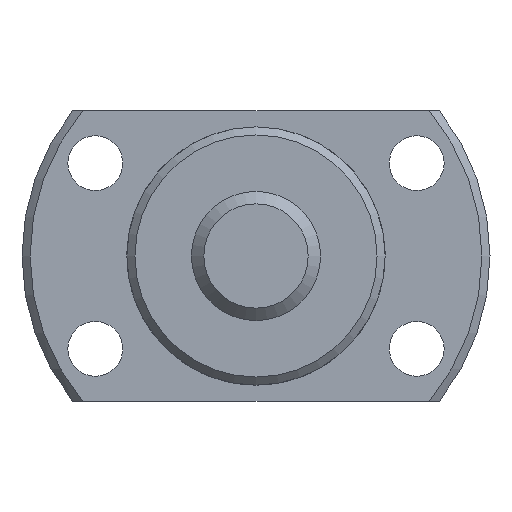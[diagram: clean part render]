
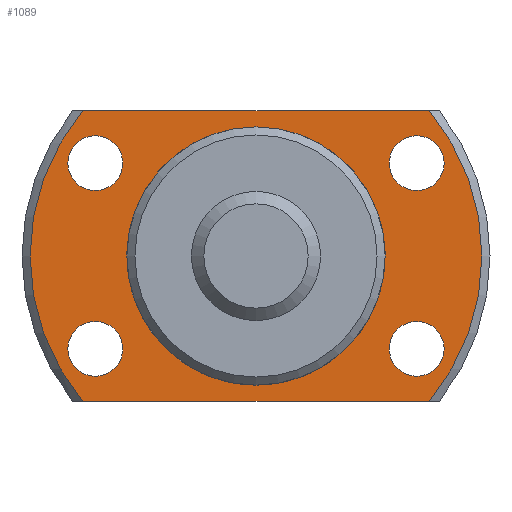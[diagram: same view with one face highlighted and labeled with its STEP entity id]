
A CAD part, left-side view. The second image highlights one B-rep face of the part: STEP entity #1089.
In plain terms, the highlighted planar face has unit normal (-1, 0, 0) as drawn and (1, 0, 0) by its records, which use the part's own axes.
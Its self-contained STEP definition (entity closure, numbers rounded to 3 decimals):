
#121=LINE('',#1882,#189);
#122=LINE('',#1884,#190);
#189=VECTOR('',#1518,1000.);
#190=VECTOR('',#1519,1000.);
#360=ORIENTED_EDGE('',*,*,#605,.T.);
#361=ORIENTED_EDGE('',*,*,#587,.T.);
#362=ORIENTED_EDGE('',*,*,#606,.T.);
#363=ORIENTED_EDGE('',*,*,#607,.T.);
#364=ORIENTED_EDGE('',*,*,#608,.F.);
#365=ORIENTED_EDGE('',*,*,#609,.F.);
#366=ORIENTED_EDGE('',*,*,#610,.F.);
#367=ORIENTED_EDGE('',*,*,#611,.F.);
#368=ORIENTED_EDGE('',*,*,#580,.F.);
#580=EDGE_CURVE('',#709,#709,#786,.T.);
#587=EDGE_CURVE('',#713,#715,#789,.T.);
#605=EDGE_CURVE('',#731,#713,#121,.T.);
#606=EDGE_CURVE('',#715,#732,#122,.T.);
#607=EDGE_CURVE('',#732,#731,#801,.T.);
#608=EDGE_CURVE('',#733,#733,#802,.T.);
#609=EDGE_CURVE('',#734,#734,#803,.T.);
#610=EDGE_CURVE('',#735,#735,#804,.T.);
#611=EDGE_CURVE('',#736,#736,#805,.T.);
#709=VERTEX_POINT('',#1816);
#713=VERTEX_POINT('',#1828);
#715=VERTEX_POINT('',#1835);
#731=VERTEX_POINT('',#1883);
#732=VERTEX_POINT('',#1885);
#733=VERTEX_POINT('',#1888);
#734=VERTEX_POINT('',#1890);
#735=VERTEX_POINT('',#1892);
#736=VERTEX_POINT('',#1894);
#786=CIRCLE('',#1216,7.8);
#789=CIRCLE('',#1220,14.);
#801=CIRCLE('',#1239,14.);
#802=CIRCLE('',#1240,1.7);
#803=CIRCLE('',#1241,1.7);
#804=CIRCLE('',#1242,1.7);
#805=CIRCLE('',#1243,1.7);
#875=EDGE_LOOP('',(#360,#361,#362,#363));
#876=EDGE_LOOP('',(#364));
#877=EDGE_LOOP('',(#365));
#878=EDGE_LOOP('',(#366));
#879=EDGE_LOOP('',(#367));
#880=EDGE_LOOP('',(#368));
#977=FACE_BOUND('',#875,.T.);
#978=FACE_BOUND('',#876,.T.);
#979=FACE_BOUND('',#877,.T.);
#980=FACE_BOUND('',#878,.T.);
#981=FACE_BOUND('',#879,.T.);
#982=FACE_BOUND('',#880,.T.);
#1034=PLANE('',#1238);
#1089=ADVANCED_FACE('',(#977,#978,#979,#980,#981,#982),#1034,.T.);
#1216=AXIS2_PLACEMENT_3D('',#1815,#1466,#1467);
#1220=AXIS2_PLACEMENT_3D('',#1836,#1476,#1477);
#1238=AXIS2_PLACEMENT_3D('',#1881,#1516,#1517);
#1239=AXIS2_PLACEMENT_3D('',#1886,#1520,#1521);
#1240=AXIS2_PLACEMENT_3D('',#1887,#1522,#1523);
#1241=AXIS2_PLACEMENT_3D('',#1889,#1524,#1525);
#1242=AXIS2_PLACEMENT_3D('',#1891,#1526,#1527);
#1243=AXIS2_PLACEMENT_3D('',#1893,#1528,#1529);
#1466=DIRECTION('',(1.,0.,0.));
#1467=DIRECTION('',(0.,0.,-1.));
#1476=DIRECTION('',(1.,0.,0.));
#1477=DIRECTION('',(0.,0.,-1.));
#1516=DIRECTION('',(1.,0.,0.));
#1517=DIRECTION('',(0.,0.,-1.));
#1518=DIRECTION('',(0.,-1.,0.));
#1519=DIRECTION('',(0.,1.,0.));
#1520=DIRECTION('',(1.,0.,0.));
#1521=DIRECTION('',(0.,0.,-1.));
#1522=DIRECTION('',(1.,0.,0.));
#1523=DIRECTION('',(0.,0.,-1.));
#1524=DIRECTION('',(1.,0.,0.));
#1525=DIRECTION('',(0.,0.,-1.));
#1526=DIRECTION('',(1.,0.,0.));
#1527=DIRECTION('',(0.,0.,-1.));
#1528=DIRECTION('',(1.,0.,0.));
#1529=DIRECTION('',(0.,0.,-1.));
#1815=CARTESIAN_POINT('',(4.,0.,0.));
#1816=CARTESIAN_POINT('',(4.,0.,-7.8));
#1828=CARTESIAN_POINT('',(4.,-10.724,9.));
#1835=CARTESIAN_POINT('',(4.,-10.724,-9.));
#1836=CARTESIAN_POINT('',(4.,0.,0.));
#1881=CARTESIAN_POINT('',(4.,7.8,0.));
#1882=CARTESIAN_POINT('',(4.,14.5,9.));
#1883=CARTESIAN_POINT('',(4.,10.724,9.));
#1884=CARTESIAN_POINT('',(4.,-14.5,-9.));
#1885=CARTESIAN_POINT('',(4.,10.724,-9.));
#1886=CARTESIAN_POINT('',(4.,0.,0.));
#1887=CARTESIAN_POINT('',(4.,9.959,5.75));
#1888=CARTESIAN_POINT('',(4.,9.959,4.05));
#1889=CARTESIAN_POINT('',(4.,-9.959,5.75));
#1890=CARTESIAN_POINT('',(4.,-9.959,4.05));
#1891=CARTESIAN_POINT('',(4.,-9.959,-5.75));
#1892=CARTESIAN_POINT('',(4.,-9.959,-7.45));
#1893=CARTESIAN_POINT('',(4.,9.959,-5.75));
#1894=CARTESIAN_POINT('',(4.,9.959,-7.45));
